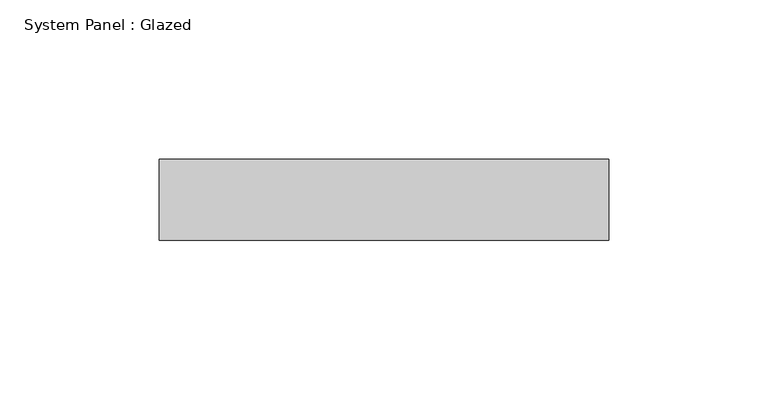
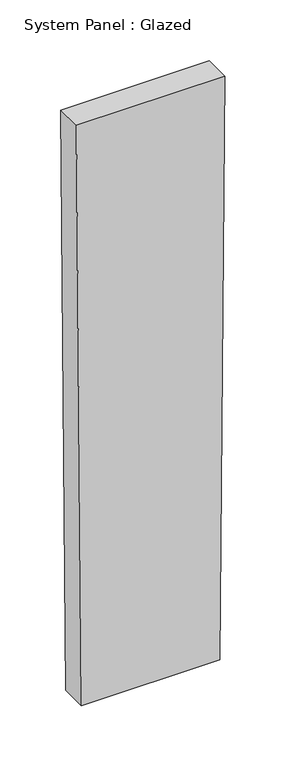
"""IFC4 building model written with IfcOpenShell, lengths in millimetres: plate geometry, System Panel : Glazed."""

from ifc_helpers import new_model, si_unit, frame, origin, place, context, project, spatial, polyline, outline, extrude, source, transform, mapped, element, save


def system_panel_glazed_bcda8126(model_context):
    return source(origin(), model_context, "Body", "SweptSolid", [
        extrude(outline(polyline([(0.0, -65.7516926), (0.0, 65.7516926), (584.1791084, 70.5882427), (584.1791084, -70.5882427), (0.0, -65.7516926)])), frame((0.0, 19.05, 0.0), z_axis=(0.0, 1.0, 0.0), x_axis=(0.0, 0.0, 1.0)), (0.0, 0.0, 1.0), 25.4),
    ])


if __name__ == "__main__":
    model = new_model("IFC4")
    model_context = context("Model", 3, world=origin())
    ifc_project = project(units=[si_unit("LENGTHUNIT", "METRE", prefix="MILLI")], contexts=[model_context])
    site = spatial("IfcSite", under=ifc_project)
    building = spatial("IfcBuilding", under=site)
    placement = place(None, origin())
    system_panel_glazed_shape = system_panel_glazed_bcda8126(model_context)
    element("IfcPlate", 1, ObjectType="System Panel : Glazed", at=placement, inside=building, context=model_context, shape_type="MappedRepresentation", body=[
        mapped(system_panel_glazed_shape, transform((0.0, 0.0, 0.0), x_axis=(1.0, 0.0, 0.0), y_axis=(0.0, 1.0, 0.0), z_axis=(0.0, 0.0, 1.0))),
    ])
    save(model, "model.ifc")
